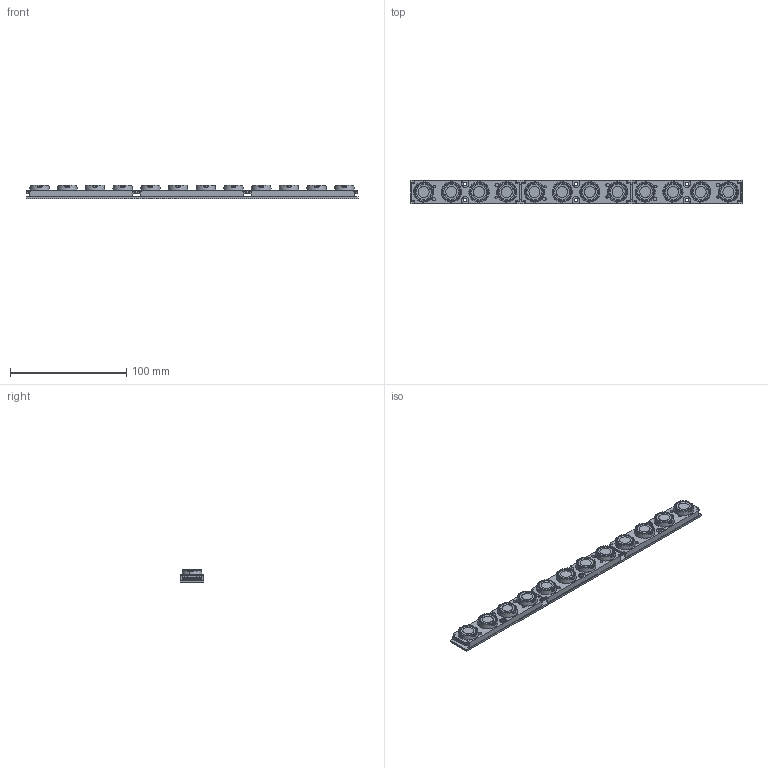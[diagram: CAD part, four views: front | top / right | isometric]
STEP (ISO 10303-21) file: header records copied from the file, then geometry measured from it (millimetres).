
FILE_DESCRIPTION(('CATIA V5 STEP Exchange'),'2;1');
FILE_NAME('Z:\Engineering\Design Library\Florentina\5-Mech_models\Florentina\Florentina-12x1_with reference pcb_MechanicalModel_20180718.stp','2018-07-20T08:51:23+00:00',('none'),('none'),'Version 5-6 Release 2013','CATIA V5 STEP AP203','none');
FILE_SCHEMA(('CONFIG_CONTROL_DESIGN'));
Products named in the file (1): Part5
Bounding box: 285.6 x 20 x 11.26 mm (x, y, z)
Volume: 33101.3 mm3; surface area: 37223.5 mm2
Topology: 14 solids, 62 shells, 2916 faces, 8518 edges, 5669 vertices
Faces by surface type: plane 1105, cylinder 572, cone 519, torus 288, bspline 240, sphere 120, revolution 72
Entity records: 119477 total; most frequent: CARTESIAN_POINT 52161, ORIENTED_EDGE 16892, DIRECTION 9136, EDGE_CURVE 8446, VERTEX_POINT 5669, AXIS2_PLACEMENT_3D 3813, B_SPLINE_CURVE_WITH_KNOTS 3708, VECTOR 3125
